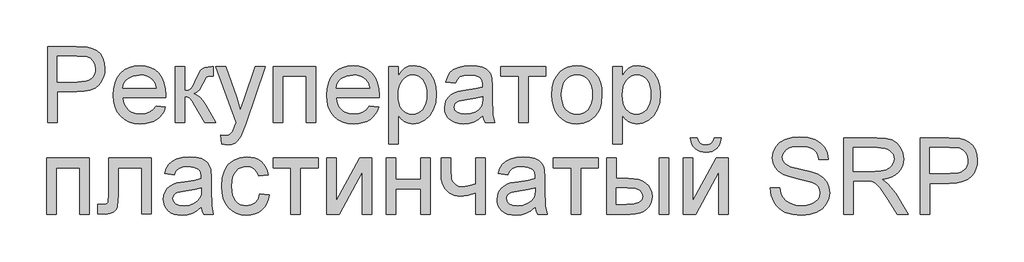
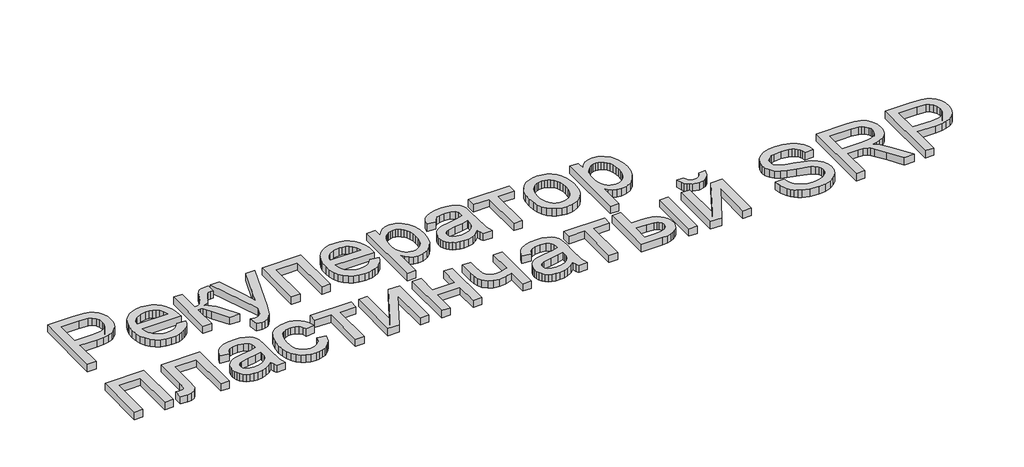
# One storey, part 23 of 31: 1 proxy.
"""IFC4 building model written with IfcOpenShell, lengths in millimetres."""

from ifc_helpers import new_model, si_unit, origin, origin_with_axes, place, context, project, spatial, polyline, outline, extrude, element, save

model = new_model("IFC4")

# Units and contexts
model_context = context("Model", 3, world=origin())
ifc_project = project(units=[si_unit("LENGTHUNIT", "METRE", prefix="MILLI")], contexts=[model_context])

# Site, building, storey
site = spatial("IfcSite", under=ifc_project)
building = spatial("IfcBuilding", under=site)
storey = spatial("IfcBuildingStorey", under=building, Name="Этаж 01", Elevation=0.0)

# Proxy
placement = place(None, origin())
element("IfcBuildingElementProxy", 1, Name="450 мм Arial", ObjectType="450 мм Arial", at=placement, inside=storey, context=model_context, shape_type="SweptSolid", body=[
    extrude(outline(polyline([(52271.9286629, -2479.5055236), (52271.9286629, -2029.8493808), (52438.5736884, -2029.8493808), (52505.7586395, -2034.1307748), (52535.7146746, -2042.1309436), (52560.373857, -2055.1535168), (52580.2301936, -2073.7885584), (52595.7776915, -2098.6261322), (52605.8225004, -2127.9234913), (52609.17077, -2159.9378889), (52606.9100019, -2187.5405297), (52600.1276975, -2212.9338613), (52588.823857, -2236.117884), (52572.9984802, -2257.0925975), (52551.2724643, -2274.4788992), (52522.2667065, -2286.8976861), (52485.9812067, -2294.3489582), (52442.4159651, -2296.8327156), (52328.1356807, -2296.8327156), (52328.1356807, -2479.5055236), (52271.9286629, -2479.5055236)]), holes=[polyline([(52328.1356807, -2240.6256978), (52445.709345, -2240.6256978), (52495.5491616, -2235.4660692), (52514.1293135, -2229.0165334), (52528.4829611, -2219.9871834), (52539.1933072, -2208.6181614), (52546.8435544, -2195.1496096), (52551.4337027, -2179.5815281), (52552.9637521, -2161.9139169), (52549.3547566, -2136.6646706), (52538.52777, -2115.3674802), (52521.8275892, -2099.3396978), (52500.5990109, -2089.8986753), (52444.391993, -2086.0563987), (52328.1356807, -2086.0563987), (52328.1356807, -2240.6256978)])]), origin_with_axes(), (0.0, 0.0, 1.0), 50.0),
    extrude(outline(polyline([(52910.6248149, -2381.1432424), (52965.7340395, -2388.1691196), (52957.2844615, -2410.2416265), (52945.8777028, -2429.6931519), (52931.5137634, -2446.5236957), (52914.1926432, -2460.7332579), (52894.0927337, -2472.0199455), (52871.3924263, -2480.0818651), (52846.0917209, -2484.9190169), (52818.1906176, -2486.5314009), (52783.3150962, -2483.7491809), (52752.2406841, -2475.4025211), (52724.9673813, -2461.4914214), (52701.495188, -2442.0158818), (52682.6200041, -2417.5179378), (52669.1377299, -2388.5396249), (52661.0483654, -2355.0809429), (52658.3519106, -2317.141892), (52661.0758103, -2277.9163645), (52669.2475093, -2243.3427362), (52682.8670076, -2213.4210071), (52701.9343053, -2188.1511772), (52725.3447478, -2168.0752819), (52751.9936806, -2153.7353567), (52781.8811036, -2145.1314016), (52815.007017, -2142.2634165), (52847.0660125, -2145.1245404), (52876.0580479, -2153.7079119), (52901.9831232, -2168.013531), (52924.8412384, -2188.0413979), (52943.5002942, -2213.2563381), (52956.8281912, -2243.1231776), (52964.8249294, -2277.6419162), (52967.4905088, -2316.812554), (52967.1611708, -2331.9621018), (52714.5589285, -2331.9621018), (52717.8145718, -2354.3913915), (52724.2881217, -2374.0350307), (52733.9795784, -2390.8930193), (52746.8889416, -2404.9653574), (52762.3026459, -2416.0599311), (52779.5071256, -2423.9846266), (52798.5023806, -2428.7394439), (52819.2884109, -2430.324383), (52849.2032788, -2427.3877859), (52874.3976355, -2418.5779945), (52894.8714808, -2403.3461122), (52910.6248149, -2381.1432424)]), holes=[polyline([(52714.5589285, -2275.7550839), (52911.2834909, -2275.7550839), (52903.6812722, -2246.0597747), (52888.7787279, -2224.817474), (52873.4507887, -2213.2906442), (52856.0095974, -2205.0571943), (52836.4551539, -2200.1171244), (52814.7874583, -2198.4704344), (52776.8998665, -2203.7261199), (52745.5715897, -2219.4931764), (52733.1150661, -2230.8930739), (52723.7941147, -2244.0700243), (52717.6087355, -2259.0240276), (52714.5589285, -2275.7550839)])]), origin_with_axes(), (0.0, 0.0, 1.0), 50.0),
    extrude(outline(polyline([(53023.6975266, -2149.2892938), (53079.9045445, -2149.2892938), (53079.9045445, -2289.8068384), (53102.7660903, -2287.2819138), (53117.5588553, -2279.7071399), (53130.6500406, -2259.9468602), (53148.4068475, -2220.8654181), (53162.7193279, -2188.9059101), (53174.0403215, -2170.0924771), (53184.6065821, -2159.841832), (53196.6548638, -2153.5706877), (53237.7672235, -2149.2892938), (53248.525598, -2149.2892938), (53248.525598, -2205.8256496), (53233.3760503, -2205.4963116), (53215.8113572, -2206.9783326), (53205.9312173, -2211.4243955), (53186.6100549, -2248.4200303), (53174.7401647, -2273.0792127), (53163.9406229, -2288.4345967), (53150.86316, -2298.6852418), (53132.1595064, -2308.0302075), (53149.971203, -2315.9411805), (53167.6182306, -2329.9037393), (53185.1005891, -2349.9178837), (53202.4182787, -2375.9836138), (53262.5773525, -2479.5055236), (53198.6857814, -2479.5055236), (53139.7342803, -2378.1792004), (53123.8162772, -2351.2146521), (53110.0938607, -2335.3103714), (53096.2342201, -2327.5297613), (53079.9045445, -2324.9362245), (53079.9045445, -2479.5055236), (53023.6975266, -2479.5055236), (53023.6975266, -2149.2892938)])), origin_with_axes(), (0.0, 0.0, 1.0), 50.0),
    extrude(outline(polyline([(53297.7067387, -2605.9713138), (53290.6808614, -2551.8501033), (53319.2234877, -2556.7901732), (53334.2358113, -2555.2395401), (53345.8998653, -2550.5876409), (53362.2569857, -2533.2973962), (53377.6260922, -2491.9105881), (53382.0172654, -2478.297951), (53262.5773525, -2149.2892938), (53321.8581917, -2149.2892938), (53385.2008661, -2332.6207778), (53407.2665117, -2405.9533714), (53429.3321574, -2341.1835656), (53494.4313011, -2149.2892938), (53553.273023, -2149.2892938), (53438.3340626, -2487.4096355), (53408.4740844, -2560.7422291), (53393.1873124, -2584.1526716), (53375.8696229, -2600.3725679), (53355.7525603, -2609.8410352), (53332.0676695, -2612.997191), (53297.7067387, -2605.9713138)])), origin_with_axes(), (0.0, 0.0, 1.0), 50.0),
    extrude(outline(polyline([(53599.8194596, -2149.2892938), (53852.75104, -2149.2892938), (53852.75104, -2479.5055236), (53796.5440221, -2479.5055236), (53796.5440221, -2205.4963116), (53656.0264775, -2205.4963116), (53656.0264775, -2479.5055236), (53599.8194596, -2479.5055236), (53599.8194596, -2149.2892938)])), origin_with_axes(), (0.0, 0.0, 1.0), 50.0),
    extrude(outline(polyline([(54168.2568394, -2381.1432424), (54223.3660639, -2388.1691196), (54214.916486, -2410.2416265), (54203.5097273, -2429.6931519), (54189.1457879, -2446.5236957), (54171.8246677, -2460.7332579), (54151.7247581, -2472.0199455), (54129.0244507, -2480.0818651), (54103.7237453, -2484.9190169), (54075.8226421, -2486.5314009), (54040.9471206, -2483.7491809), (54009.8727085, -2475.4025211), (53982.5994058, -2461.4914214), (53959.1272124, -2442.0158818), (53940.2520286, -2417.5179378), (53926.7697544, -2388.5396249), (53918.6803899, -2355.0809429), (53915.983935, -2317.141892), (53918.7078347, -2277.9163645), (53926.8795337, -2243.3427362), (53940.4990321, -2213.4210071), (53959.5663297, -2188.1511772), (53982.9767722, -2168.0752819), (54009.625705, -2153.7353567), (54039.5131281, -2145.1314016), (54072.6390414, -2142.2634165), (54104.6980369, -2145.1245404), (54133.6900723, -2153.7079119), (54159.6151476, -2168.013531), (54182.4732628, -2188.0413979), (54201.1323186, -2213.2563381), (54214.4602156, -2243.1231776), (54222.4569538, -2277.6419162), (54225.1225332, -2316.812554), (54224.7931952, -2331.9621018), (53972.1909529, -2331.9621018), (53975.4465962, -2354.3913915), (53981.9201462, -2374.0350307), (53991.6116028, -2390.8930193), (54004.5209661, -2404.9653574), (54019.9346704, -2416.0599311), (54037.13915, -2423.9846266), (54056.134405, -2428.7394439), (54076.9204354, -2430.324383), (54106.8353033, -2427.3877859), (54132.0296599, -2418.5779945), (54152.5035053, -2403.3461122), (54168.2568394, -2381.1432424)]), holes=[polyline([(53972.1909529, -2275.7550839), (54168.9155154, -2275.7550839), (54161.3132967, -2246.0597747), (54146.4107524, -2224.817474), (54131.0828132, -2213.2906442), (54113.6416218, -2205.0571943), (54094.0871784, -2200.1171244), (54072.4194828, -2198.4704344), (54034.5318909, -2203.7261199), (54003.2036141, -2219.4931764), (53990.7470906, -2230.8930739), (53981.4261392, -2244.0700243), (53975.24076, -2259.0240276), (53972.1909529, -2275.7550839)])]), origin_with_axes(), (0.0, 0.0, 1.0), 50.0),
    extrude(outline(polyline([(54281.3295511, -2605.9713138), (54281.3295511, -2149.2892938), (54337.5365689, -2149.2892938), (54337.5365689, -2204.3985183), (54355.8697173, -2177.2144113), (54376.3984524, -2157.797192), (54400.3303467, -2146.1468604), (54428.8729729, -2142.2634165), (54466.8840666, -2147.6974934), (54500.1197592, -2163.9997242), (54527.1803645, -2190.1820948), (54546.6661959, -2225.2565913), (54558.4400292, -2266.6708442), (54562.3646403, -2311.8724841), (54557.9322998, -2359.942109), (54544.6352783, -2402.9344397), (54522.8989706, -2438.6676122), (54493.1487717, -2464.9597622), (54458.4996701, -2481.1384912), (54422.0666544, -2486.5314009), (54396.2273442, -2482.9224053), (54373.1599621, -2472.0954187), (54353.4134048, -2455.7520207), (54337.5365689, -2435.5937909), (54337.5365689, -2605.9713138), (54281.3295511, -2605.9713138)]), holes=[polyline([(54337.5365689, -2317.0321127), (54339.0563266, -2344.1201628), (54343.6155994, -2367.4208259), (54351.2143875, -2386.9341021), (54361.8526909, -2402.6599914), (54374.6591361, -2414.7631627), (54388.7623496, -2423.4082851), (54404.1623315, -2428.5953585), (54420.8590817, -2430.324383), (54437.7959743, -2428.5336077), (54453.4772657, -2423.1612816), (54467.902956, -2414.2074049), (54481.0730452, -2401.6719774), (54492.0475478, -2385.3766079), (54499.8864782, -2365.1429048), (54504.5898364, -2340.9708682), (54506.1576225, -2312.8604981), (54504.6275731, -2286.005729), (54500.0374247, -2262.7462331), (54492.3871776, -2243.0820103), (54481.6768315, -2227.0130606), (54468.8395109, -2214.5256616), (54454.8083401, -2205.6060909), (54439.583319, -2200.2543485), (54423.1644477, -2198.4704344), (54406.7970354, -2200.3675585), (54391.3970536, -2206.0589307), (54376.964502, -2215.5445511), (54363.4993809, -2228.8244196), (54352.1406507, -2245.7201449), (54344.0272719, -2266.0533355), (54339.1592447, -2289.8239914), (54337.5365689, -2317.0321127)])]), origin_with_axes(), (0.0, 0.0, 1.0), 50.0),
    extrude(outline(polyline([(54836.3738524, -2437.3502602), (54809.5190833, -2460.3764751), (54781.8684142, -2475.4436884), (54752.7906137, -2483.7594727), (54721.6544507, -2486.5314009), (54696.6281937, -2484.8641273), (54674.6826191, -2479.8623065), (54655.8177271, -2471.5259385), (54640.0335175, -2459.8550233), (54627.5701328, -2445.5905713), (54618.6677151, -2429.4735932), (54613.3262645, -2411.5040888), (54611.545781, -2391.6820582), (54614.2353746, -2368.3813951), (54622.3041555, -2347.2214289), (54634.7503872, -2329.1078392), (54650.5723334, -2314.9463054), (54669.1662077, -2304.2428205), (54689.9282238, -2296.5033776), (54738.5604678, -2288.0503691), (54796.029948, -2279.1582432), (54836.0445144, -2268.7292067), (54836.3738524, -2256.2143629), (54832.5041309, -2231.1297856), (54820.8949666, -2214.7177755), (54794.9321546, -2202.5322697), (54758.7598648, -2198.4704344), (54725.2771686, -2201.1737504), (54701.894171, -2209.2836986), (54685.948723, -2224.2822998), (54674.778676, -2247.651575), (54618.5716582, -2240.6256978), (54628.3282963, -2209.8874849), (54642.8877802, -2185.7360319), (54663.608629, -2167.2656593), (54691.8493621, -2153.5706877), (54726.3886844, -2145.0902343), (54766.0053007, -2142.2634165), (54804.0026719, -2144.7608963), (54834.1233761, -2152.2533357), (54856.8339753, -2163.5194396), (54872.6010318, -2177.337913), (54883.0575132, -2194.4223215), (54889.8363869, -2215.4862308), (54892.5808702, -2264.6673714), (54892.5808702, -2334.5968057), (54895.4351328, -2432.2455213), (54906.6326247, -2479.5055236), (54850.4256068, -2479.5055236), (54841.4237016, -2459.9648026), (54836.3738524, -2437.3502602)]), holes=[polyline([(54836.3738524, -2324.9362245), (54798.6097623, -2334.2949126), (54745.6961244, -2342.1715796), (54697.3383287, -2351.2832642), (54684.7548728, -2357.5132412), (54675.437352, -2366.1034739), (54669.6739371, -2376.3952863), (54667.7527988, -2387.7300023), (54671.9381358, -2404.4439056), (54684.4941469, -2418.1388772), (54705.1463837, -2427.2780066), (54733.6203979, -2430.324383), (54763.8097141, -2426.962391), (54790.4860917, -2416.8764149), (54812.1126201, -2402.0150378), (54827.1523885, -2384.326843), (54833.8214829, -2366.1034739), (54836.0445144, -2340.8542276), (54836.3738524, -2324.9362245)])]), origin_with_axes(), (0.0, 0.0, 1.0), 50.0),
    extrude(outline(polyline([(54941.7620108, -2149.2892938), (55208.7453456, -2149.2892938), (55208.7453456, -2205.4963116), (55103.3571872, -2205.4963116), (55103.3571872, -2479.5055236), (55047.1501693, -2479.5055236), (55047.1501693, -2205.4963116), (54941.7620108, -2205.4963116), (54941.7620108, -2149.2892938)])), origin_with_axes(), (0.0, 0.0, 1.0), 50.0),
    extrude(outline(polyline([(55243.8747318, -2314.3974087), (55246.914247, -2271.6314978), (55256.0327928, -2234.7799484), (55271.230369, -2203.8427604), (55292.5069758, -2178.819934), (55313.9276679, -2162.8264576), (55337.5713914, -2151.4025459), (55363.4381465, -2144.5481989), (55391.527933, -2142.2634165), (55422.5371636, -2145.0456365), (55450.5754911, -2153.3922963), (55475.6429153, -2167.303396), (55497.7394365, -2186.7789355), (55515.7741223, -2211.160239), (55528.6560408, -2239.7886304), (55536.3851918, -2272.6641096), (55538.9615755, -2309.7866768), (55534.4057333, -2366.5700361), (55528.7109304, -2389.8775605), (55520.7382065, -2409.795648), (55498.3569452, -2442.1668284), (55467.6598996, -2466.3868935), (55431.199439, -2481.495274), (55391.527933, -2486.5314009), (55360.0658626, -2483.7594727), (55331.7668093, -2475.4436884), (55306.6307729, -2461.5840477), (55284.6577535, -2442.1805508), (55266.8151815, -2417.5625357), (55254.0704872, -2388.0593403), (55246.4236707, -2353.6709646), (55243.8747318, -2314.3974087)]), holes=[polyline([(55300.0817497, -2314.2876294), (55301.707856, -2341.5506403), (55306.5861751, -2365.1566272), (55314.7167068, -2385.1055902), (55326.0994513, -2401.3975291), (55339.9453695, -2414.0530277), (55355.4654225, -2423.0926695), (55372.6596103, -2428.5164546), (55391.527933, -2430.324383), (55410.3001987, -2428.5061628), (55427.4257745, -2423.0515023), (55442.9046602, -2413.9604014), (55456.736856, -2401.2328601), (55468.1196005, -2384.7796828), (55476.2501323, -2364.5116736), (55481.1284513, -2340.4288327), (55482.7545577, -2312.5311601), (55481.1181595, -2286.1326614), (55476.208965, -2263.1441832), (55468.0269742, -2243.5657255), (55456.572187, -2227.3972883), (55442.6885322, -2214.7417897), (55427.2199382, -2205.7021479), (55410.1664052, -2200.2783627), (55391.527933, -2198.4704344), (55372.6596103, -2200.2715015), (55355.4654225, -2205.674703), (55339.9453695, -2214.6800388), (55326.0994513, -2227.287509), (55314.7167068, -2243.5314195), (55306.5861751, -2263.4460764), (55301.707856, -2287.0314797), (55300.0817497, -2314.2876294)])]), origin_with_axes(), (0.0, 0.0, 1.0), 50.0),
    extrude(outline(polyline([(55602.1944706, -2605.9713138), (55602.1944706, -2149.2892938), (55658.4014885, -2149.2892938), (55658.4014885, -2204.3985183), (55676.7346369, -2177.2144113), (55697.2633719, -2157.797192), (55721.1952662, -2146.1468604), (55749.7378925, -2142.2634165), (55787.7489861, -2147.6974934), (55820.9846788, -2163.9997242), (55848.045284, -2190.1820948), (55867.5311154, -2225.2565913), (55879.3049488, -2266.6708442), (55883.2295599, -2311.8724841), (55878.7972193, -2359.942109), (55865.5001978, -2402.9344397), (55843.7638901, -2438.6676122), (55814.0136912, -2464.9597622), (55779.3645896, -2481.1384912), (55742.9315739, -2486.5314009), (55717.0922637, -2482.9224053), (55694.0248816, -2472.0954187), (55674.2783243, -2455.7520207), (55658.4014885, -2435.5937909), (55658.4014885, -2605.9713138), (55602.1944706, -2605.9713138)]), holes=[polyline([(55658.4014885, -2317.0321127), (55659.9212461, -2344.1201628), (55664.480519, -2367.4208259), (55672.0793071, -2386.9341021), (55682.7176104, -2402.6599914), (55695.5240556, -2414.7631627), (55709.6272691, -2423.4082851), (55725.027251, -2428.5953585), (55741.7240013, -2430.324383), (55758.6608938, -2428.5336077), (55774.3421852, -2423.1612816), (55788.7678755, -2414.2074049), (55801.9379647, -2401.6719774), (55812.9124673, -2385.3766079), (55820.7513977, -2365.1429048), (55825.4547559, -2340.9708682), (55827.022542, -2312.8604981), (55825.4924926, -2286.005729), (55820.9023443, -2262.7462331), (55813.2520971, -2243.0820103), (55802.541751, -2227.0130606), (55789.7044304, -2214.5256616), (55775.6732596, -2205.6060909), (55760.4482385, -2200.2543485), (55744.0293672, -2198.4704344), (55727.661955, -2200.3675585), (55712.2619731, -2206.0589307), (55697.8294216, -2215.5445511), (55684.3643004, -2228.8244196), (55673.0055702, -2245.7201449), (55664.8921914, -2266.0533355), (55660.0241642, -2289.8239914), (55658.4014885, -2317.0321127)])]), origin_with_axes(), (0.0, 0.0, 1.0), 50.0),
    extrude(outline(polyline([(52264.9027856, -2689.7213769), (52517.834366, -2689.7213769), (52517.834366, -3019.9376068), (52461.6273481, -3019.9376068), (52461.6273481, -2745.9283948), (52321.1098035, -2745.9283948), (52321.1098035, -3019.9376068), (52264.9027856, -3019.9376068), (52264.9027856, -2689.7213769)])), origin_with_axes(), (0.0, 0.0, 1.0), 50.0),
    extrude(outline(polyline([(52630.2484017, -2689.7213769), (52883.179982, -2689.7213769), (52883.179982, -3019.6082688), (52826.9729642, -3019.6082688), (52826.9729642, -2745.9283948), (52686.4554195, -2745.9283948), (52686.4554195, -2903.4617358), (52682.6680326, -2976.1356535), (52675.5735433, -2992.5888308), (52661.8648492, -3006.8189767), (52641.0616658, -3016.6579493), (52612.6837086, -3019.9376068), (52567.0155066, -3017.0833442), (52567.0155066, -2963.730589), (52592.1549736, -2963.730589), (52617.5688889, -2960.27254), (52623.9223677, -2955.7990322), (52627.723477, -2949.2946068), (52630.2484017, -2900.2781352), (52630.2484017, -2689.7213769)])), origin_with_axes(), (0.0, 0.0, 1.0), 50.0),
    extrude(outline(polyline([(53178.2668257, -2977.7823434), (53151.4120567, -3000.8085583), (53123.7613875, -3015.8757715), (53094.683587, -3024.1915559), (53063.5474241, -3026.963484), (53038.521167, -3025.2962104), (53016.5755925, -3020.2943896), (52997.7107005, -3011.9580216), (52981.9264909, -3000.2871064), (52969.4631062, -2986.0226545), (52960.5606885, -2969.9056764), (52955.2192379, -2951.936172), (52953.4387543, -2932.1141414), (52956.1283479, -2908.8134783), (52964.1971288, -2887.6535121), (52976.6433606, -2869.5399223), (52992.4653068, -2855.3783885), (53011.0591811, -2844.6749037), (53031.8211972, -2836.9354608), (53080.4534411, -2828.4824523), (53137.9229213, -2819.5903264), (53177.9374877, -2809.1612899), (53178.2668257, -2796.6464461), (53174.3971043, -2771.5618687), (53162.78794, -2755.1498587), (53136.825128, -2742.9643528), (53100.6528382, -2738.9025176), (53067.170142, -2741.6058336), (53043.7871443, -2749.7157817), (53027.8416964, -2764.7143829), (53016.6716494, -2788.0836582), (52960.4646316, -2781.0577809), (52970.2212697, -2750.3195681), (52984.7807535, -2726.1681151), (53005.5016024, -2707.6977425), (53033.7423355, -2694.0027709), (53068.2816577, -2685.5223175), (53107.8982741, -2682.6954997), (53145.8956453, -2685.1929795), (53176.0163494, -2692.6854189), (53198.7269487, -2703.9515228), (53214.4940052, -2717.7699962), (53224.9504866, -2734.8544047), (53231.7293603, -2755.918314), (53234.4738436, -2805.0994546), (53234.4738436, -2875.0288889), (53237.3281062, -2972.6776045), (53248.525598, -3019.9376068), (53192.3185802, -3019.9376068), (53183.316675, -3000.3968858), (53178.2668257, -2977.7823434)]), holes=[polyline([(53178.2668257, -2865.3683077), (53140.5027356, -2874.7269958), (53087.5890977, -2882.6036628), (53039.2313021, -2891.7153473), (53026.6478462, -2897.9453244), (53017.3303254, -2906.5355571), (53011.5669105, -2916.8273695), (53009.6457722, -2928.1620855), (53013.8311092, -2944.8759887), (53026.3871203, -2958.5709604), (53047.039357, -2967.7100897), (53075.5133712, -2970.7564662), (53105.7026874, -2967.3944742), (53132.3790651, -2957.3084981), (53154.0055934, -2942.447121), (53169.0453619, -2924.7589262), (53175.7144563, -2906.5355571), (53177.9374877, -2881.2863108), (53178.2668257, -2865.3683077)])]), origin_with_axes(), (0.0, 0.0, 1.0), 50.0),
    extrude(outline(polyline([(53522.5348101, -2900.4976939), (53578.7418279, -2907.5235711), (53572.6284914, -2934.0455715), (53563.0708283, -2957.5143343), (53550.0688387, -2977.9298594), (53533.6225226, -2995.2921468), (53514.4248619, -3009.1483569), (53493.1688388, -3019.0456497), (53469.8544533, -3024.9840255), (53444.4817052, -3026.963484), (53412.957884, -3024.2018477), (53384.6931367, -3015.9169388), (53359.6874632, -3002.1087572), (53337.9408638, -2982.777303), (53320.338434, -2958.2862202), (53307.7652699, -2928.9991529), (53300.2213715, -2894.916101), (53297.7067387, -2856.0370645), (53302.001855, -2806.0188565), (53314.8872041, -2762.6697429), (53324.6026749, -2743.9146302), (53336.5686221, -2727.6638585), (53350.7850456, -2713.9174278), (53367.2519453, -2702.6753381), (53403.9594094, -2687.6904593), (53443.7132499, -2682.6954997), (53468.6503112, -2684.4108018), (53491.2065333, -2689.5567079), (53511.3819161, -2698.1332182), (53529.1764596, -2710.1403326), (53544.2882708, -2725.3036028), (53556.4154563, -2743.3485805), (53565.5580163, -2764.2752656), (53571.7159507, -2788.0836582), (53515.5089328, -2795.1095354), (53505.3131774, -2770.5875772), (53489.4363416, -2753.0091617), (53468.7566599, -2742.4291786), (53444.1523672, -2738.9025176), (53425.0541941, -2740.6384032), (53407.8291308, -2745.8460603), (53392.4771774, -2754.5254887), (53378.9983338, -2766.6766885), (53368.0238313, -2782.5809692), (53360.1849008, -2802.5196403), (53355.4815426, -2826.4927019), (53353.9137565, -2854.5001539), (53355.4472366, -2882.9295702), (53360.0476767, -2907.1805107), (53367.7150769, -2927.2529754), (53378.4494372, -2943.1469643), (53391.6606936, -2955.2261214), (53406.7587823, -2963.8540907), (53423.7437033, -2969.0308723), (53442.6154566, -2970.7564662), (53471.7207019, -2966.4476274), (53495.5839841, -2953.5211111), (53512.942841, -2931.6475793), (53522.5348101, -2900.4976939)])), origin_with_axes(), (0.0, 0.0, 1.0), 50.0),
    extrude(outline(polyline([(53599.8194596, -2689.7213769), (53866.8027944, -2689.7213769), (53866.8027944, -2745.9283948), (53761.4146359, -2745.9283948), (53761.4146359, -3019.9376068), (53705.2076181, -3019.9376068), (53705.2076181, -2745.9283948), (53599.8194596, -2745.9283948), (53599.8194596, -2689.7213769)])), origin_with_axes(), (0.0, 0.0, 1.0), 50.0),
    extrude(outline(polyline([(53915.983935, -2689.7213769), (53972.1909529, -2689.7213769), (53972.1909529, -2941.555164), (54110.2933522, -2689.7213769), (54182.9672698, -2689.7213769), (54182.9672698, -3019.9376068), (54126.760252, -3019.9376068), (54126.760252, -2769.6407304), (53989.5360873, -3019.9376068), (53915.983935, -3019.9376068), (53915.983935, -2689.7213769)])), origin_with_axes(), (0.0, 0.0, 1.0), 50.0),
    extrude(outline(polyline([(54267.2777966, -2689.7213769), (54323.4848145, -2689.7213769), (54323.4848145, -2816.1871671), (54471.0282363, -2816.1871671), (54471.0282363, -2689.7213769), (54527.2352542, -2689.7213769), (54527.2352542, -3019.9376068), (54471.0282363, -3019.9376068), (54471.0282363, -2872.394185), (54323.4848145, -2872.394185), (54323.4848145, -3019.9376068), (54267.2777966, -3019.9376068), (54267.2777966, -2689.7213769)])), origin_with_axes(), (0.0, 0.0, 1.0), 50.0),
    extrude(outline(polyline([(54590.4681493, -2689.7213769), (54646.6751671, -2689.7213769), (54646.6751671, -2753.0640513), (54651.2310094, -2812.4546698), (54658.9841747, -2829.7174697), (54673.1319861, -2844.620014), (54692.6727071, -2854.9118264), (54716.6046014, -2858.3424305), (54750.9929771, -2854.0884814), (54794.218589, -2841.3266341), (54794.218589, -2689.7213769), (54850.4256068, -2689.7213769), (54850.4256068, -3019.9376068), (54794.218589, -3019.9376068), (54794.218589, -2895.228286), (54746.245021, -2909.7191577), (54701.564833, -2914.5494483), (54667.5744074, -2909.5133215), (54637.8379309, -2894.404941), (54614.6607695, -2871.9962349), (54600.3482891, -2845.0591313), (54592.9381842, -2814.403253), (54590.4681493, -2780.8382223), (54590.4681493, -2689.7213769)])), origin_with_axes(), (0.0, 0.0, 1.0), 50.0),
    extrude(outline(polyline([(55145.5124506, -2977.7823434), (55118.6576815, -3000.8085583), (55091.0070123, -3015.8757715), (55061.9292119, -3024.1915559), (55030.7930489, -3026.963484), (55005.7667919, -3025.2962104), (54983.8212173, -3020.2943896), (54964.9563253, -3011.9580216), (54949.1721157, -3000.2871064), (54936.708731, -2986.0226545), (54927.8063133, -2969.9056764), (54922.4648627, -2951.936172), (54920.6843791, -2932.1141414), (54923.3739728, -2908.8134783), (54931.4427537, -2887.6535121), (54943.8889854, -2869.5399223), (54959.7109316, -2855.3783885), (54978.3048059, -2844.6749037), (54999.066822, -2836.9354608), (55047.699066, -2828.4824523), (55105.1685461, -2819.5903264), (55145.1831126, -2809.1612899), (55145.5124506, -2796.6464461), (55141.6427291, -2771.5618687), (55130.0335648, -2755.1498587), (55104.0707528, -2742.9643528), (55067.898463, -2738.9025176), (55034.4157668, -2741.6058336), (55011.0327692, -2749.7157817), (54995.0873212, -2764.7143829), (54983.9172742, -2788.0836582), (54927.7102564, -2781.0577809), (54937.4668945, -2750.3195681), (54952.0263784, -2726.1681151), (54972.7472272, -2707.6977425), (55000.9879603, -2694.0027709), (55035.5272826, -2685.5223175), (55075.1438989, -2682.6954997), (55113.1412701, -2685.1929795), (55143.2619743, -2692.6854189), (55165.9725735, -2703.9515228), (55181.73963, -2717.7699962), (55192.1961114, -2734.8544047), (55198.9749851, -2755.918314), (55201.7194684, -2805.0994546), (55201.7194684, -2875.0288889), (55204.573731, -2972.6776045), (55215.7712229, -3019.9376068), (55159.564205, -3019.9376068), (55150.5622998, -3000.3968858), (55145.5124506, -2977.7823434)]), holes=[polyline([(55145.5124506, -2865.3683077), (55107.7483604, -2874.7269958), (55054.8347225, -2882.6036628), (55006.4769269, -2891.7153473), (54993.893471, -2897.9453244), (54984.5759502, -2906.5355571), (54978.8125353, -2916.8273695), (54976.891397, -2928.1620855), (54981.076734, -2944.8759887), (54993.6327451, -2958.5709604), (55014.2849819, -2967.7100897), (55042.758996, -2970.7564662), (55072.9483123, -2967.3944742), (55099.6246899, -2957.3084981), (55121.2512182, -2942.447121), (55136.2909867, -2924.7589262), (55142.9600811, -2906.5355571), (55145.1831126, -2881.2863108), (55145.5124506, -2865.3683077)])]), origin_with_axes(), (0.0, 0.0, 1.0), 50.0),
    extrude(outline(polyline([(55250.900609, -2689.7213769), (55517.8839438, -2689.7213769), (55517.8839438, -2745.9283948), (55412.4957854, -2745.9283948), (55412.4957854, -3019.9376068), (55356.2887675, -3019.9376068), (55356.2887675, -2745.9283948), (55250.900609, -2745.9283948), (55250.900609, -2689.7213769)])), origin_with_axes(), (0.0, 0.0, 1.0), 50.0),
    extrude(outline(polyline([(55567.0650844, -2689.7213769), (55623.2721023, -2689.7213769), (55623.2721023, -2809.1612899), (55692.7624193, -2809.1612899), (55724.7390803, -2810.9211898), (55752.8254362, -2816.2008895), (55777.021487, -2825.0003891), (55797.3272328, -2837.3196885), (55813.3927519, -2852.7333928), (55824.8681226, -2870.8161071), (55831.7533451, -2891.5678314), (55834.0484192, -2914.9885657), (55832.1238503, -2935.8843753), (55826.3501436, -2955.2089683), (55816.7272991, -2972.9623446), (55803.2553167, -2989.1445043), (55785.5568301, -3002.6164866), (55763.2544727, -3012.2393312), (55736.3482446, -3018.0130379), (55704.8381458, -3019.9376068), (55567.0650844, -3019.9376068), (55567.0650844, -2689.7213769)]), holes=[polyline([(55623.2721023, -2963.730589), (55681.0160308, -2963.730589), (55725.7785533, -2960.7802694), (55755.5561971, -2951.9293108), (55772.2701003, -2936.8209303), (55777.8414014, -2915.098345), (55773.710954, -2896.7377518), (55761.319612, -2880.5178555), (55750.5646681, -2873.8899283), (55734.8216258, -2869.1556947), (55688.371246, -2865.3683077), (55623.2721023, -2865.3683077), (55623.2721023, -2963.730589)])]), origin_with_axes(), (0.0, 0.0, 1.0), 50.0),
    extrude(outline(polyline([(55876.2036826, -2689.7213769), (55932.4107005, -2689.7213769), (55932.4107005, -3019.9376068), (55876.2036826, -3019.9376068), (55876.2036826, -2689.7213769)])), origin_with_axes(), (0.0, 0.0, 1.0), 50.0),
    extrude(outline(polyline([(56199.3940353, -2570.281464), (56241.5492987, -2570.281464), (56232.4787814, -2606.2753624), (56224.5163492, -2620.7216363), (56214.2691347, -2632.8007934), (56201.9429741, -2642.3344423), (56187.7437037, -2649.1441914), (56153.7258333, -2654.5919908), (56116.812533, -2649.1853587), (56101.4640102, -2642.4270686), (56088.1875722, -2632.9654624), (56077.175333, -2620.9377644), (56068.6194063, -2606.4811986), (56058.8764907, -2570.281464), (56101.031754, -2570.281464), (56106.959838, -2588.7930038), (56116.8399778, -2601.9528012), (56130.7270633, -2609.8157458), (56148.675984, -2612.4367274), (56168.9302707, -2609.8980803), (56183.5858115, -2602.2821392), (56193.4659514, -2589.2046763), (56199.3940353, -2570.281464)])), origin_with_axes(), (0.0, 0.0, 1.0), 50.0),
    extrude(outline(polyline([(56016.7212273, -2689.7213769), (56072.9282451, -2689.7213769), (56072.9282451, -2941.555164), (56211.0306445, -2689.7213769), (56283.7045621, -2689.7213769), (56283.7045621, -3019.9376068), (56227.4975442, -3019.9376068), (56227.4975442, -2769.6407304), (56090.2733795, -3019.9376068), (56016.7212273, -3019.9376068), (56016.7212273, -2689.7213769)])), origin_with_axes(), (0.0, 0.0, 1.0), 50.0),
    extrude(outline(polyline([(56529.6102652, -2865.3683077), (56585.817283, -2865.3683077), (56592.2668188, -2896.5593604), (56603.9308728, -2921.6302152), (56622.126797, -2941.5277191), (56648.1719434, -2957.1987187), (56680.0079497, -2967.3670293), (56715.5764531, -2970.7564662), (56746.8910075, -2968.1903743), (56774.3083956, -2960.4920987), (56796.5249879, -2948.3065929), (56812.2371547, -2932.2788104), (56821.5821204, -2913.8770499), (56824.6971089, -2894.56961), (56822.3642981, -2875.756177), (56815.3658657, -2859.4951135), (56801.1494422, -2845.6217504), (56777.1626582, -2833.9714188), (56695.3221664, -2812.5095595), (56641.598906, -2798.3068584), (56607.2242527, -2784.7902782), (56579.2442455, -2765.8807883), (56559.4153537, -2742.9643528), (56547.6003532, -2716.5349787), (56543.6620196, -2687.086673), (56548.5334775, -2654.1665959), (56563.147851, -2623.4695502), (56587.1209126, -2597.4518486), (56620.0684345, -2578.5698035), (56659.6164388, -2567.084141), (56703.3909473, -2563.2555868), (56750.8156186, -2567.2625324), (56792.312206, -2579.2833692), (56826.3986885, -2599.0710937), (56851.5930452, -2626.3787025), (56867.5384931, -2659.5046159), (56873.8782495, -2696.7472542), (56817.6712317, -2696.7472542), (56813.9112895, -2678.8120558), (56807.3519745, -2663.2096683), (56797.9932864, -2649.9400916), (56785.8352255, -2639.0033257), (56770.6513716, -2630.4542602), (56752.2153051, -2624.3477849), (56705.586534, -2619.4626046), (56657.8599695, -2624.2928952), (56639.6160168, -2630.3307585), (56625.1182838, -2638.783767), (56606.1813491, -2660.1084022), (56601.4471154, -2672.2733244), (56599.8690375, -2685.439983), (56604.3425453, -2707.0390665), (56617.7630686, -2724.4116458), (56649.4892954, -2739.9454212), (56709.5385899, -2755.8085346), (56771.5090227, -2770.8757479), (56808.9986645, -2784.0218229), (56841.0405069, -2804.4133338), (56863.3943233, -2829.5802456), (56876.5266759, -2859.24811), (56880.9041267, -2893.1424787), (56875.8679999, -2927.7915802), (56860.7596194, -2960.3823193), (56836.1964939, -2988.4309386), (56802.7961322, -3009.4536806), (56762.6306192, -3022.5860332), (56717.7720398, -3026.963484), (56662.7039825, -3022.2429728), (56617.3788409, -3008.081439), (56598.2395005, -2997.4465662), (56581.2751632, -2984.423993), (56566.4858288, -2969.0137193), (56553.8714975, -2951.2157451), (56536.2793596, -2910.7620614), (56529.6102652, -2865.3683077)])), origin_with_axes(), (0.0, 0.0, 1.0), 50.0),
    extrude(outline(polyline([(56965.2146535, -3019.9376068), (56965.2146535, -2570.281464), (57158.975174, -2570.281464), (57211.0517445, -2573.314118), (57248.9393364, -2582.4120802), (57276.6311728, -2599.2083179), (57298.120477, -2625.3357989), (57311.9115056, -2657.7344241), (57316.5085151, -2693.3440949), (57314.6045298, -2716.4389218), (57308.892574, -2737.6400552), (57299.3726475, -2756.9474952), (57286.0447505, -2774.3612417), (57268.7373528, -2789.3255369), (57247.278924, -2801.2846228), (57221.6694643, -2810.2384996), (57191.9089736, -2816.1871671), (57223.8547591, -2840.2288408), (57269.4131818, -2898.0825486), (57344.3924654, -3019.9376068), (57279.073763, -3019.9376068), (57220.5613792, -2926.7349542), (57178.2963364, -2865.0389697), (57162.5841696, -2847.0488817), (57148.6010272, -2835.8925571), (57121.8697599, -2825.1890723), (57089.2652984, -2823.2130443), (57021.4216714, -2823.2130443), (57021.4216714, -3019.9376068), (56965.2146535, -3019.9376068)]), holes=[polyline([(57021.4216714, -2767.0060265), (57147.2287856, -2767.0060265), (57183.3599081, -2765.0162761), (57211.394805, -2759.0470249), (57232.4998815, -2748.7003229), (57247.8415431, -2733.57822), (57257.1865087, -2715.2862388), (57260.3014972, -2695.4299022), (57258.8160457, -2681.0556709), (57254.3596909, -2668.0125141), (57236.5342719, -2645.9194236), (57222.9250654, -2637.4183866), (57205.8646711, -2631.3462173), (57161.3903193, -2626.4884819), (57021.4216714, -2626.4884819), (57021.4216714, -2767.0060265)])]), origin_with_axes(), (0.0, 0.0, 1.0), 50.0),
    extrude(outline(polyline([(57414.8707963, -3019.9376068), (57414.8707963, -2570.281464), (57581.5158219, -2570.281464), (57648.700773, -2574.5628579), (57678.6568081, -2582.5630267), (57703.3159905, -2595.5856), (57723.1723271, -2614.2206415), (57738.719825, -2639.0582153), (57748.7646338, -2668.3555745), (57752.1129035, -2700.3699721), (57749.8521353, -2727.9726128), (57743.069831, -2753.3659445), (57731.7659904, -2776.5499671), (57715.9406136, -2797.5246807), (57694.2145978, -2814.9109824), (57665.20884, -2827.3297693), (57628.9233402, -2834.7810414), (57585.3580985, -2837.2647988), (57471.0778142, -2837.2647988), (57471.0778142, -3019.9376068), (57414.8707963, -3019.9376068)]), holes=[polyline([(57471.0778142, -2781.0577809), (57588.6514785, -2781.0577809), (57638.4912951, -2775.8981524), (57657.071447, -2769.4486166), (57671.4250946, -2760.4192666), (57682.1354407, -2749.0502445), (57689.7856879, -2735.5816928), (57694.3758362, -2720.0136113), (57695.9058856, -2702.3460001), (57692.2968901, -2677.0967538), (57681.4699035, -2655.7995634), (57664.7697226, -2639.771781), (57643.5411444, -2630.3307585), (57587.3341265, -2626.4884819), (57471.0778142, -2626.4884819), (57471.0778142, -2781.0577809)])]), origin_with_axes(), (0.0, 0.0, 1.0), 50.0),
])

save(model, "model.ifc")
